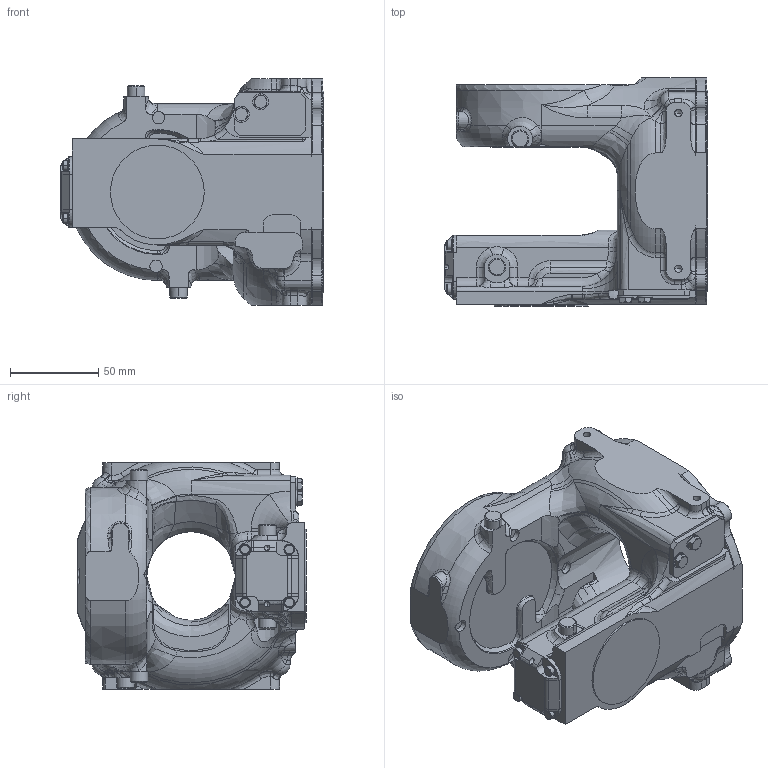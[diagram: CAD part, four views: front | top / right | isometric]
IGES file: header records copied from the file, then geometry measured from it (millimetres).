
Start section:  PTC IGES file: b_axis_gp20hl.igs
Global section: file name: b_axis_gp20hl.igs; native system: Creo Parametric by Parametric Technology Corporation; preprocessor: 2015030; author: ip-naka; organization: Unknown; date: 20190410.110642; units: millimetre
Bounding box: 148.8 x 129 x 128 mm (x, y, z)
Volume: 987382.8 mm3; surface area: 101927.9 mm2
Topology: 1 solids, 3 shells, 729 faces, 1827 edges, 1118 vertices
Faces by surface type: revolution 396, bspline 333
